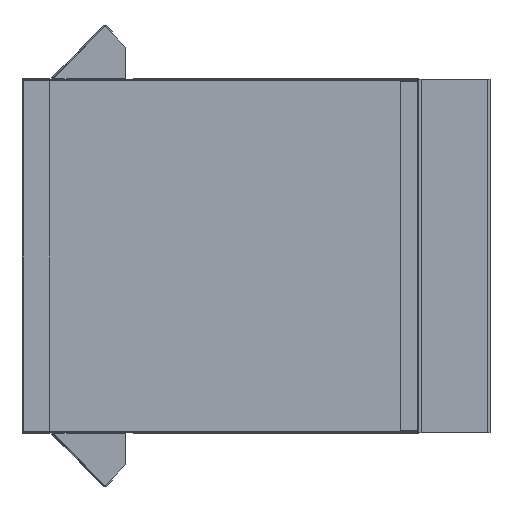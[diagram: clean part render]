
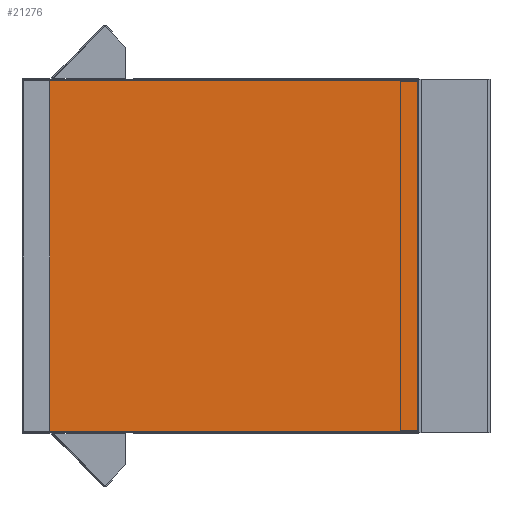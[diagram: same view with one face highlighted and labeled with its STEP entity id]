
A CAD part, left-side view. The second image highlights one B-rep face of the part: STEP entity #21276.
In plain terms, the highlighted planar face has unit normal (-1, 0, 0) as drawn and (1, 0, 0) by its records, which use the part's own axes.
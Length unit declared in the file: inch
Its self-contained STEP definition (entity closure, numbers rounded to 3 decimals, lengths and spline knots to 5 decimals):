
#620 = CARTESIAN_POINT ( 'NONE',  ( 0., 0., -19.16 ) ) ;
#1125 = LINE ( 'NONE', #24812, #21156 ) ;
#2556 = DIRECTION ( 'NONE',  ( 0., 0., -1. ) ) ;
#2668 = ORIENTED_EDGE ( 'NONE', *, *, #13097, .T. ) ;
#5316 = LINE ( 'NONE', #27411, #35759 ) ;
#7424 = LINE ( 'NONE', #23310, #27393 ) ;
#9176 = DIRECTION ( 'NONE',  ( -1., 0., 0. ) ) ;
#10818 = VERTEX_POINT ( 'NONE', #26927 ) ;
#11122 = DIRECTION ( 'NONE',  ( 0., -1., 0. ) ) ;
#11404 = EDGE_CURVE ( 'NONE', #29585, #32638, #5316, .T. ) ;
#12351 = VERTEX_POINT ( 'NONE', #620 ) ;
#12983 = EDGE_CURVE ( 'NONE', #32638, #12351, #1125, .T. ) ;
#13097 = EDGE_CURVE ( 'NONE', #10818, #29585, #24097, .T. ) ;
#13132 = DIRECTION ( 'NONE',  ( 0., 0., 1. ) ) ;
#14007 = CARTESIAN_POINT ( 'NONE',  ( 0., 0., -0.07 ) ) ;
#14472 = FACE_OUTER_BOUND ( 'NONE', #27237, .T. ) ;
#14660 = CARTESIAN_POINT ( 'NONE',  ( 0., 0., 0. ) ) ;
#14962 = ORIENTED_EDGE ( 'NONE', *, *, #12983, .T. ) ;
#15833 = DIRECTION ( 'NONE',  ( 0., 1., 0. ) ) ;
#15856 = ORIENTED_EDGE ( 'NONE', *, *, #22539, .T. ) ;
#16679 = CARTESIAN_POINT ( 'NONE',  ( 0., 21.53, -0.07 ) ) ;
#17408 = PLANE ( 'NONE',  #24987 ) ;
#17930 = ORIENTED_EDGE ( 'NONE', *, *, #11404, .T. ) ;
#21156 = VECTOR ( 'NONE', #2556, 39.37008 ) ;
#21276 = ADVANCED_FACE ( 'NONE', ( #14472 ), #17408, .F. ) ;
#22539 = EDGE_CURVE ( 'NONE', #12351, #10818, #7424, .T. ) ;
#23310 = CARTESIAN_POINT ( 'NONE',  ( 0., 21.53, -19.16 ) ) ;
#24097 = LINE ( 'NONE', #35241, #28125 ) ;
#24812 = CARTESIAN_POINT ( 'NONE',  ( 0., 0., 0. ) ) ;
#24987 = AXIS2_PLACEMENT_3D ( 'NONE', #14660, #9176, #34880 ) ;
#26927 = CARTESIAN_POINT ( 'NONE',  ( 0., 21.53, -19.16 ) ) ;
#27237 = EDGE_LOOP ( 'NONE', ( #15856, #2668, #17930, #14962 ) ) ;
#27393 = VECTOR ( 'NONE', #15833, 39.37008 ) ;
#27411 = CARTESIAN_POINT ( 'NONE',  ( 0., 0., -0.07 ) ) ;
#28125 = VECTOR ( 'NONE', #13132, 39.37008 ) ;
#29585 = VERTEX_POINT ( 'NONE', #16679 ) ;
#32638 = VERTEX_POINT ( 'NONE', #14007 ) ;
#34880 = DIRECTION ( 'NONE',  ( 0., 0., 1. ) ) ;
#35241 = CARTESIAN_POINT ( 'NONE',  ( 0., 21.53, 0. ) ) ;
#35759 = VECTOR ( 'NONE', #11122, 39.37008 ) ;
